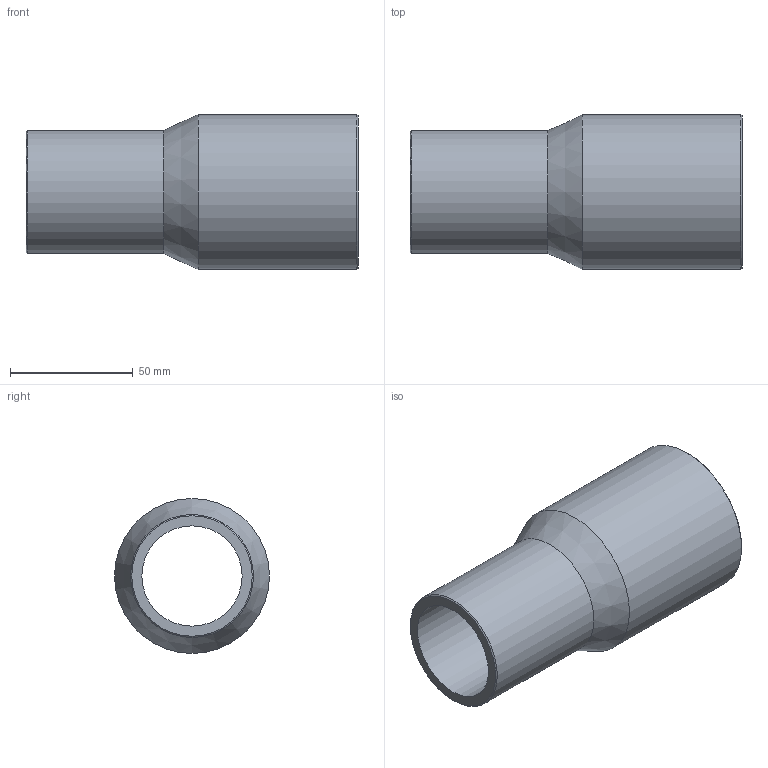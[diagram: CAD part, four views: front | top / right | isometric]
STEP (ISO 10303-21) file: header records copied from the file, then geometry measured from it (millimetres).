
FILE_DESCRIPTION(/* description */ ('Unknown'),/* implementation_level */ '2;1');
FILE_NAME(/* name */ 'RP063050C',/* time_stamp */ '2021-09-17T15:00:20+02:00',/* author */ ('Unknown'),/* organization */ ('Unknown'),/* preprocessor_version */ 'ST-DEVELOPER v16.7',/* originating_system */ 'Solid Edge',/* authorisation */ 'Unknown');
FILE_SCHEMA (('AUTOMOTIVE_DESIGN {1 0 10303 214 3 1 1}'));
Length unit declared in the file: millimetre
Products named in the file (1): RP063050C
Bounding box: 135 x 63 x 63 mm (x, y, z)
Volume: 119357.3 mm3; surface area: 45673.8 mm2
Topology: 1 solids, 1 shells, 10 faces, 19 edges, 11 vertices
Faces by surface type: cylinder 4, cone 4, plane 2
Full cylindrical faces by diameter (mm): 40.8 x1, 50 x1, 51.4 x1, 63 x1
Entity records: 238 total; most frequent: DIRECTION 42, CARTESIAN_POINT 31, AXIS2_PLACEMENT_3D 21, ORIENTED_EDGE 20, EDGE_LOOP 20, FACE_BOUND 20, EDGE_CURVE 10, VERTEX_POINT 10
